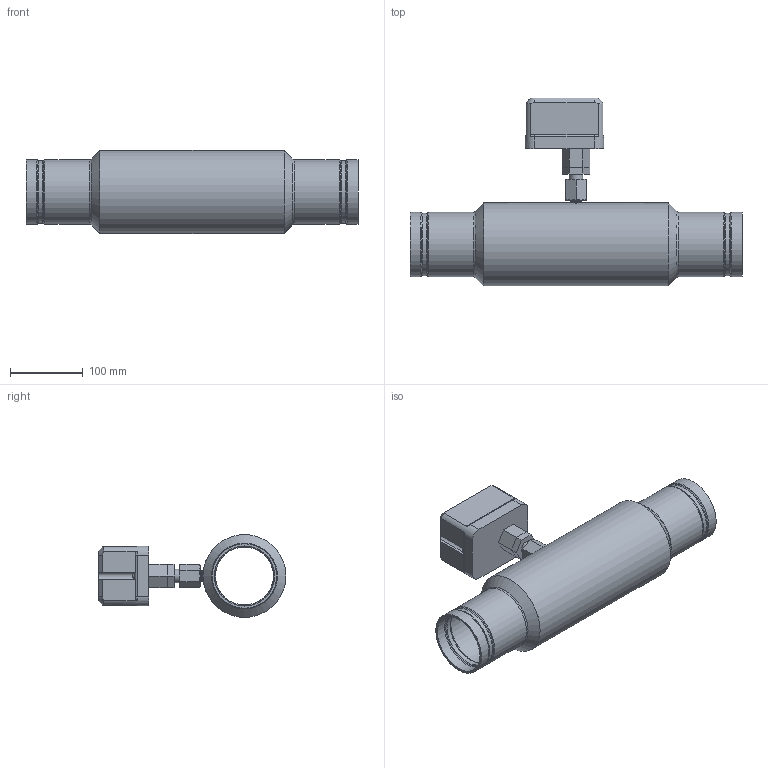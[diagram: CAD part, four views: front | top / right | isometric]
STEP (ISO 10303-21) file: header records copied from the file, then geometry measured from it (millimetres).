
FILE_DESCRIPTION(/* description */ (''),/* implementation_level */ '2;1');
FILE_NAME(/* name */ 'C:\Users\myoung\Box\ECS CAD Library\ECS Products\ILD-X Inline Detector\Export\ILD-3B10.stp',/* time_stamp */ '2020-05-05T15:55:10-05:00',/* author */ ('myoung'),/* organization */ (''),/* preprocessor_version */ 'ST-DEVELOPER v18',/* originating_system */ 'Autodesk Inventor 2020',/* authorisation */ '');
FILE_SCHEMA (('AUTOMOTIVE_DESIGN { 1 0 10303 214 3 1 1 }'));
Length unit declared in the file: inch
Products named in the file (1): ILD-3B10
Bounding box: 457.2 x 258.83 x 114.3 mm (x, y, z)
Volume: 2087105.1 mm3; surface area: 328738.7 mm2
Topology: 3 solids, 3 shells, 169 faces, 451 edges, 298 vertices
Faces by surface type: plane 63, cone 42, cylinder 30, torus 22, bspline 12
Full cylindrical faces by diameter (mm): 1.524 x2, 7.112 x1, 7.62 x2, 10.719 x1, 12.359 x1, 19.05 x1, 79.604 x2, 82.804 x3, 85.7 x2, 88.9 x4, 114.3 x1
Entity records: 16012 total; most frequent: CARTESIAN_POINT 11634, ORIENTED_EDGE 902, DIRECTION 843, EDGE_CURVE 451, AXIS2_PLACEMENT_3D 338, VERTEX_POINT 298, EDGE_LOOP 183, CIRCLE 175
